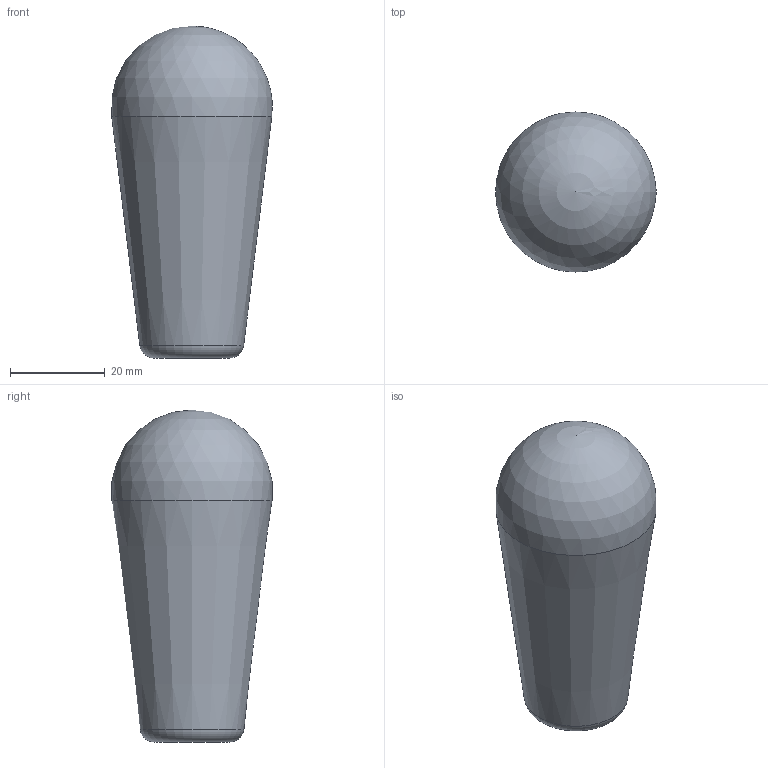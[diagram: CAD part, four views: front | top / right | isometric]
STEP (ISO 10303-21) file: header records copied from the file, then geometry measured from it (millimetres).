
FILE_DESCRIPTION( ('This file contains a STEP AP42 implementation' ,'as created by ZW3D STEP Interface translator.') ,'2;1' );
FILE_NAME( 'Galka stozkowa B34.stp' ,'26 4 3. 81524', (''), ('ZWCAD Software Co.'), 'Version 1.0', 'ZW3D to STEP translator', '' );
FILE_SCHEMA(('AP242_MANAGED_MODEL_BASED_3D_ENGINEERING_MIM_LF { 1 0 10303 442 1 1 4 }'));
Length unit declared in the file: millimetre
Products named in the file (1): 0
Bounding box: 33.85 x 33.76 x 70 mm (x, y, z)
Volume: 40718.2 mm3; surface area: 7732.7 mm2
Topology: 1 solids, 1 shells, 8 faces, 15 edges, 9 vertices
Faces by surface type: cone 2, cylinder 2, plane 2, torus 1, sphere 1
Full cylindrical faces by diameter (mm): 8.5 x2
Entity records: 239 total; most frequent: DIRECTION 42, CARTESIAN_POINT 31, ORIENTED_EDGE 26, AXIS2_PLACEMENT_3D 19, EDGE_CURVE 13, CIRCLE 10, EDGE_LOOP 9, VERTEX_POINT 8
